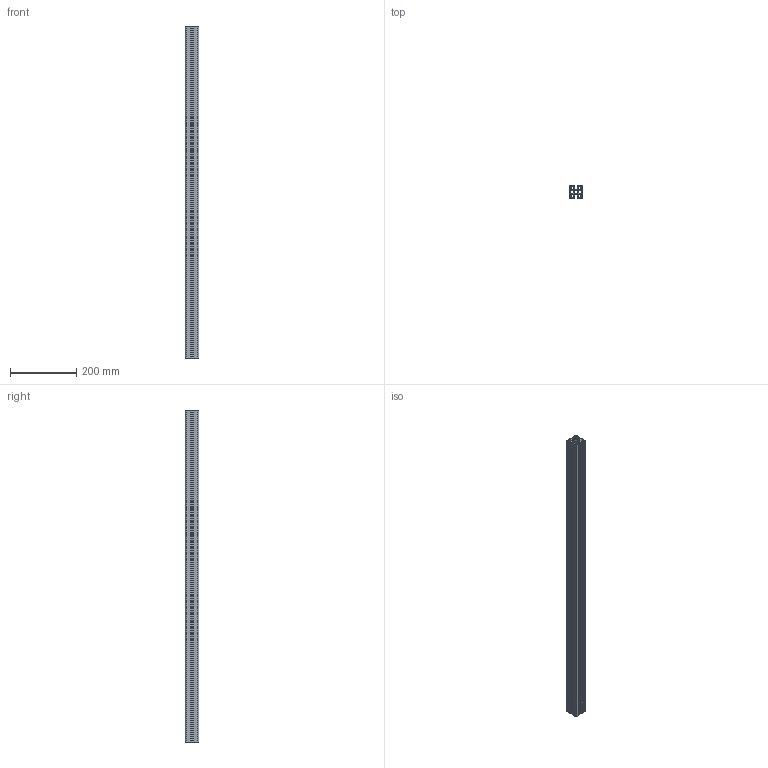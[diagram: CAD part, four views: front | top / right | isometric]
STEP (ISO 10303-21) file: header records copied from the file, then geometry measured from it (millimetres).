
FILE_DESCRIPTION(/* description */ (' Large X Profile - Length: 1000.000 mm'),/* implementation_level */ '2;1');
FILE_NAME(/* name */ 'Light Profile 40x40.STEP',/* time_stamp */ '2026-02-10T15:01:54-05:00',/* author */ ('Design2'),/* organization */ ('CCS Design LLC'),/* preprocessor_version */ 'ST-DEVELOPER v20',/* originating_system */ 'Autodesk Inventor 2025',/* authorisation */ '');
FILE_SCHEMA (('AUTOMOTIVE_DESIGN { 1 0 10303 214 3 1 1 }'));
Length unit declared in the file: inch
Products named in the file (1): XP-40-40-1000
Bounding box: 40 x 40 x 1000 mm (x, y, z)
Volume: 557184 mm3; surface area: 554102.8 mm2
Topology: 1 solids, 1 shells, 167 faces, 495 edges, 330 vertices
Faces by surface type: plane 90, cylinder 77
Full cylindrical faces by diameter (mm): 5 x4, 12.5 x1
Entity records: 5704 total; most frequent: CARTESIAN_POINT 993, ORIENTED_EDGE 990, DIRECTION 985, EDGE_CURVE 495, LINE 341, VECTOR 341, VERTEX_POINT 330, AXIS2_PLACEMENT_3D 322
